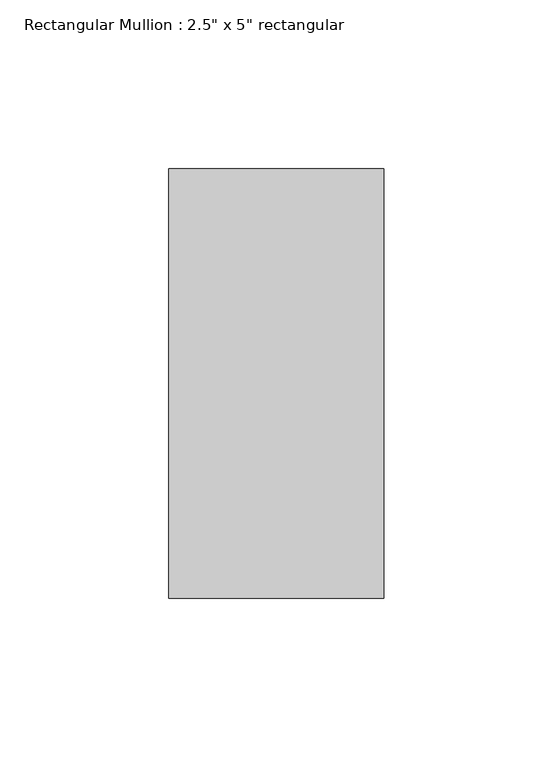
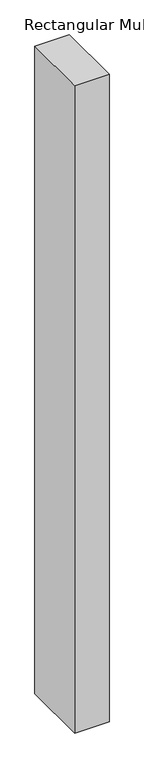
"""IFC4 building model written with IfcOpenShell, lengths in millimetres: member geometry."""

from ifc_helpers import new_model, si_unit, frame, origin, place, context, project, spatial, polyline, outline, extrude, source, transform, mapped, element, save


def member_e7b2e991(model_context):
    return source(origin(), model_context, "Body", "SweptSolid", [
        extrude(outline(polyline([(0.0, 63.5), (0.0, -63.5), (-63.5, -63.5), (-63.5, 63.5), (0.0, 63.5)])), frame((0.0, 0.0, -1263.65), z_axis=(0.0, 0.0, 1.0), x_axis=(1.0, 0.0, 0.0)), (0.0, 0.0, 1.0), 1263.65),
    ])


if __name__ == "__main__":
    model = new_model("IFC4")
    model_context = context("Model", 3, world=origin())
    ifc_project = project(units=[si_unit("LENGTHUNIT", "METRE", prefix="MILLI")], contexts=[model_context])
    site = spatial("IfcSite", under=ifc_project)
    building = spatial("IfcBuilding", under=site)
    placement = place(None, origin())
    member_shape = member_e7b2e991(model_context)
    element("IfcMember", 1, ObjectType="Rectangular Mullion : 2.5\" x 5\" rectangular", at=placement, inside=building, context=model_context, shape_type="MappedRepresentation", body=[
        mapped(member_shape, transform((0.0, 0.0, 0.0), x_axis=(1.0, 0.0, 0.0), y_axis=(0.0, 1.0, 0.0), z_axis=(0.0, 0.0, 1.0))),
    ])
    save(model, "model.ifc")
